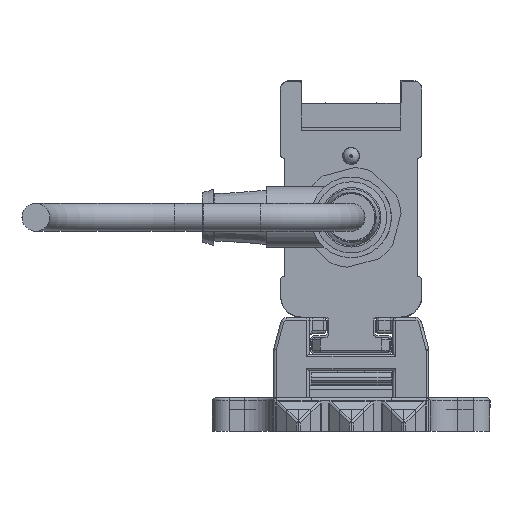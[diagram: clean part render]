
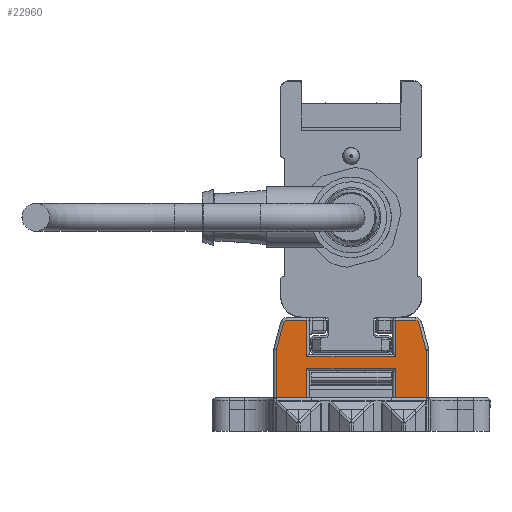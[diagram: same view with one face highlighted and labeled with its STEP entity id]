
A CAD part, left-side view. The second image highlights one B-rep face of the part: STEP entity #22960.
In plain terms, the highlighted planar face has unit normal (-1, 0, 0).
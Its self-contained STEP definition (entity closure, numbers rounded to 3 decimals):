
#22960=ADVANCED_FACE('', (#22970), #22980, .T.);
#93730=AXIS2_PLACEMENT_3D('Ax2Pl3d', #93740, #93750, #93760);
#93970=AXIS2_PLACEMENT_3D('Ax2Pl3d', #93980, #93990, #94000);
#98850=AXIS2_PLACEMENT_3D('Ax2Pl3d', #98860, #98870, #98880);
#103930=AXIS2_PLACEMENT_3D('Ax2Pl3d', #103940, #103950, #103960);
#113610=AXIS2_PLACEMENT_3D('Ax2Pl3d', #113620, #113630, #113640);
#322720=CARTESIAN_POINT('', (-747.669,-966.345,
331.37));
#93740=CARTESIAN_POINT('HicPkt', (-747.669,-965.379,
331.111));
#322730=CARTESIAN_POINT('', (-747.669,-966.379,331.111)
);
#322740=CARTESIAN_POINT('', (-747.669,-965.037,336.255)
);
#322760=CARTESIAN_POINT('', (-747.669,-965.037,336.255)
);
#322790=CARTESIAN_POINT('', (-747.669,-964.554,336.625)
);
#93980=CARTESIAN_POINT('HicPkt', (-747.669,-964.554,
336.125));
#323010=CARTESIAN_POINT('', (-747.669,-966.379,322.625)
);
#323020=CARTESIAN_POINT('', (-747.669,-960.881,
322.625));
#323030=CARTESIAN_POINT('', (-747.669,-960.881,
322.625));
#323110=CARTESIAN_POINT('', (-747.669,-944.881,
322.625));
#323120=CARTESIAN_POINT('', (-747.669,-939.383,
322.625));
#323130=CARTESIAN_POINT('', (-747.669,-939.383,
322.625));
#98860=CARTESIAN_POINT('HicPkt', (-747.669,-941.209,
336.125));
#325600=CARTESIAN_POINT('', (-747.669,-940.726,
336.255));
#325610=CARTESIAN_POINT('', (-747.669,-941.209,
336.625));
#325620=CARTESIAN_POINT('', (-747.669,-960.881,
330.025));
#325630=CARTESIAN_POINT('', (-747.669,-944.881,330.025)
);
#325640=CARTESIAN_POINT('', (-747.669,-960.881,
330.025));
#325800=CARTESIAN_POINT('', (-747.669,-960.881,
328.005));
#325810=CARTESIAN_POINT('', (-747.669,-944.881,
328.005));
#325820=CARTESIAN_POINT('', (-747.669,-944.881,
328.005));
#325830=CARTESIAN_POINT('', (-747.669,-960.881,
328.005));
#325850=CARTESIAN_POINT('', (-747.669,-944.881,
322.625));
#325860=CARTESIAN_POINT('', (-747.669,-944.881,330.025)
);
#325870=CARTESIAN_POINT('', (-747.669,-944.881,
336.625));
#326720=CARTESIAN_POINT('', (-747.669,-944.881,
336.625));
#326730=CARTESIAN_POINT('', (-747.669,-940.726,
336.255));
#326740=CARTESIAN_POINT('', (-747.669,-939.417,
331.37));
#326930=CARTESIAN_POINT('', (-747.669,-939.383,
331.111));
#326940=CARTESIAN_POINT('', (-747.669,-939.383,
331.111));
#103940=CARTESIAN_POINT('HicPkt', (-747.669,-940.383,
331.111));
#327750=CARTESIAN_POINT('', (-747.669,-966.379,331.111)
);
#113620=CARTESIAN_POINT('HicPkt', (-747.669,-964.554,
336.625));
#329550=CARTESIAN_POINT('', (-747.669,-960.881,
336.625));
#329560=CARTESIAN_POINT('', (-747.669,-960.881,
336.625));
#329570=CARTESIAN_POINT('', (-747.669,-960.881,
336.625));
#369010=CIRCLE('Circle', #93730, 1.);
#369050=CIRCLE('Circle', #93970, 0.5);
#369630=CIRCLE('Circle', #98850, 0.5);
#370160=CIRCLE('Circle', #103930, 1.);
#93750=DIRECTION('Axis', (-1.,0.,0.)
);
#93760=DIRECTION('RefDirection', (0.,
0.,-1.));
#517530=DIRECTION('', (0.,0.259,
0.966));
#93990=DIRECTION('Axis', (-1.,0.,0.)
);
#94000=DIRECTION('RefDirection', (0.,
0.,-1.));
#517640=DIRECTION('', (0.,1.,0.));
#517680=DIRECTION('', (0.,1.,0.));
#98870=DIRECTION('Axis', (1.,0.,
0.));
#98880=DIRECTION('RefDirection', (0.,
0.,-1.));
#518870=DIRECTION('', (0.,-1.,0.))
;
#518970=DIRECTION('', (0.,1.,0.));
#518980=DIRECTION('', (0.,0.,1.));
#519000=DIRECTION('', (0.,0.,-1.)
);
#519010=DIRECTION('', (0.,0.,-1.))
;
#519440=DIRECTION('', (0.,-1.,0.));
#519450=DIRECTION('', (0.,-0.259,0.966));
#519540=DIRECTION('', (0.,0.,1.));
#103950=DIRECTION('Axis', (1.,0.,
0.));
#103960=DIRECTION('RefDirection', (0.,
0.,-1.));
#519910=DIRECTION('', (0.,0.,1.));
#113630=DIRECTION('Axis', (-1.,0.,
0.));
#113640=DIRECTION('RefDirection', (0.,
0.,-1.));
#520750=DIRECTION('', (0.,1.,0.));
#520760=DIRECTION('', (0.,0.,1.));
#562200=EDGE_CURVE('', #562210, #562190, #369010, .T.);
#562260=EDGE_CURVE('', #562190, #562240, #562270, .T.);
#562330=EDGE_CURVE('', #562240, #562320, #369050, .T.);
#562780=EDGE_CURVE('', #562770, #562790, #562800, .T.);
#562940=EDGE_CURVE('', #562930, #562950, #562960, .T.);
#567300=EDGE_CURVE('', #567310, #567320, #369630, .T.);
#567350=EDGE_CURVE('', #567360, #567370, #567380, .T.);
#567720=EDGE_CURVE('', #567700, #567730, #567740, .T.);
#567770=EDGE_CURVE('', #562790, #567700, #567780, .T.);
#567810=EDGE_CURVE('', #567730, #562930, #567820, .T.);
#567830=EDGE_CURVE('', #567840, #567360, #567850, .T.);
#569670=EDGE_CURVE('', #567320, #567840, #569680, .T.);
#569740=EDGE_CURVE('', #569750, #567310, #569760, .T.);
#570180=EDGE_CURVE('', #562950, #570190, #570200, .T.);
#570220=EDGE_CURVE('', #570190, #569750, #370160, .T.);
#571930=EDGE_CURVE('', #562770, #562210, #571940, .T.);
#575740=EDGE_CURVE('', #562320, #575750, #575760, .T.);
#575770=EDGE_CURVE('', #567370, #575750, #575780, .T.);
#683540=EDGE_LOOP('Edge_loop', (#683550,#683560,#683570,#683580,#683590,
#683600,#683610,#683620,#683630,#683640,#683650,#683660,#683670,#683680,
#683690,#683700,#683710,#683720));
#22970=FACE_OUTER_BOUND('Face_outer_bound', #683540, .T.);
#562270=LINE('Line', #322760, #765320);
#562800=LINE('Line', #323020, #765430);
#562960=LINE('Line', #323120, #765470);
#567380=LINE('Line', #325620, #766660);
#567740=LINE('Line', #325810, #766760);
#567780=LINE('Line', #325830, #766770);
#567820=LINE('Line', #325850, #766790);
#567850=LINE('Line', #325860, #766800);
#569680=LINE('Line', #326720, #767230);
#569760=LINE('Line', #326730, #767240);
#570200=LINE('Line', #326930, #767330);
#571940=LINE('Line', #327750, #767700);
#575760=LINE('Line', #329550, #768540);
#575780=LINE('Line', #329570, #768550);
#683550=ORIENTED_EDGE('', *, *, #575740, .T.);
#683560=ORIENTED_EDGE('', *, *, #575770, .F.);
#683570=ORIENTED_EDGE('', *, *, #567350, .F.);
#683580=ORIENTED_EDGE('', *, *, #567830, .F.);
#683590=ORIENTED_EDGE('', *, *, #569670, .F.);
#683600=ORIENTED_EDGE('', *, *, #567300, .F.);
#683610=ORIENTED_EDGE('', *, *, #569740, .F.);
#683620=ORIENTED_EDGE('', *, *, #570220, .F.);
#683630=ORIENTED_EDGE('', *, *, #570180, .F.);
#683640=ORIENTED_EDGE('', *, *, #562940, .F.);
#683650=ORIENTED_EDGE('', *, *, #567810, .F.);
#683660=ORIENTED_EDGE('', *, *, #567720, .F.);
#683670=ORIENTED_EDGE('', *, *, #567770, .F.);
#683680=ORIENTED_EDGE('', *, *, #562780, .F.);
#683690=ORIENTED_EDGE('', *, *, #571930, .T.);
#683700=ORIENTED_EDGE('', *, *, #562200, .T.);
#683710=ORIENTED_EDGE('', *, *, #562260, .T.);
#683720=ORIENTED_EDGE('', *, *, #562330, .T.);
#22980=PLANE('Plane', #113610);
#765320=VECTOR('', #517530, 5.057);
#765430=VECTOR('', #517640, 5.498);
#765470=VECTOR('', #517680, 5.498);
#766660=VECTOR('', #518870, 16.);
#766760=VECTOR('', #518970, 16.);
#766770=VECTOR('', #518980, 5.38);
#766790=VECTOR('', #519000, 5.38);
#766800=VECTOR('', #519010, 6.6);
#767230=VECTOR('', #519440, 3.672);
#767240=VECTOR('', #519450, 5.057);
#767330=VECTOR('', #519540, 8.486);
#767700=VECTOR('', #519910, 8.486);
#768540=VECTOR('', #520750, 3.672);
#768550=VECTOR('', #520760, 6.6);
#562190=VERTEX_POINT('', #322720);
#562210=VERTEX_POINT('', #322730);
#562240=VERTEX_POINT('', #322740);
#562320=VERTEX_POINT('', #322790);
#562770=VERTEX_POINT('', #323010);
#562790=VERTEX_POINT('', #323030);
#562930=VERTEX_POINT('', #323110);
#562950=VERTEX_POINT('', #323130);
#567310=VERTEX_POINT('', #325600);
#567320=VERTEX_POINT('', #325610);
#567360=VERTEX_POINT('', #325630);
#567370=VERTEX_POINT('', #325640);
#567700=VERTEX_POINT('', #325800);
#567730=VERTEX_POINT('', #325820);
#567840=VERTEX_POINT('', #325870);
#569750=VERTEX_POINT('', #326740);
#570190=VERTEX_POINT('', #326940);
#575750=VERTEX_POINT('', #329560);
